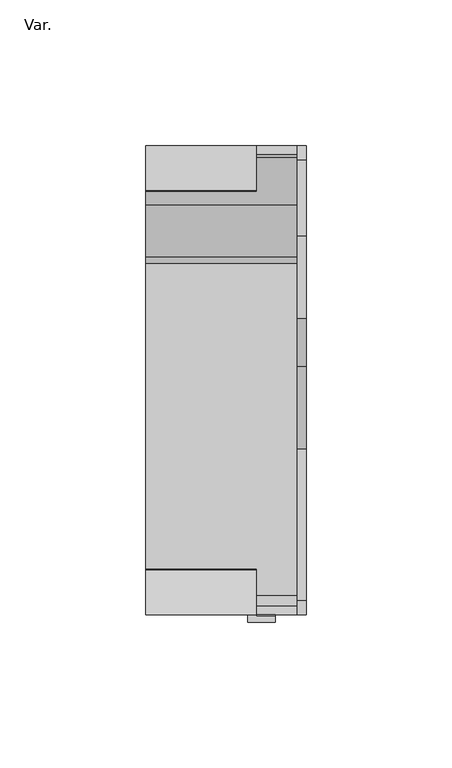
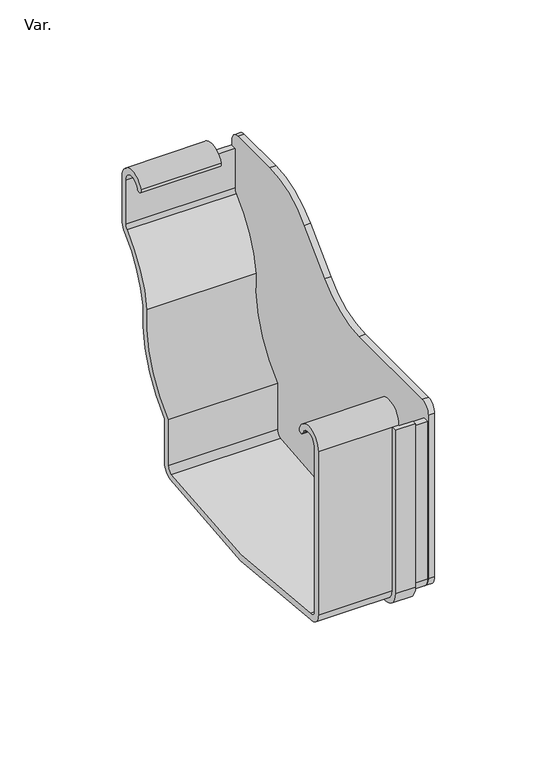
"""IFC4 building model written with IfcOpenShell, lengths in millimetres: pipe fitting geometry, PavcoWavin_UnionesDeTuberia_ZCanal Amazona_Tapa Izquierda Externa_NoUsarUnion : Var.."""

from ifc_helpers import new_model, si_unit, frame, origin, place, context, project, spatial, polyline, circle_curve, source, transform, mapped, element, save
from ifc_brep_helpers import plane_surface, cylinder_surface, revolved_surface, advanced_brep


def var_7115812f(model_context):
    return source(origin(), model_context, "Body", "AdvancedBrep", [
        advanced_brep(
        [(55.0, -63.9333621, 95.4959393), (55.0, -63.9333621, 13.8433205), (55.0, -57.5122662, 7.8581156), (55.0, 57.1983327, 7.9880254), (55.0, 62.0670241, 13.8960326), (55.0, 62.0670241, 35.6709016), (55.0, 79.7697905, 81.3073788), (55.0, 95.0881417, 109.0993235), (55.0, 97.0620322, 113.5508008), (55.0, 97.0620322, 135.5000106), (55.0, 92.0620322, 140.5000106), (55.0, 66.0531783, 140.5000106), (55.0, 37.768907, 128.7842818), (55.0, 21.1962934, 112.2116681), (55.0, -7.0879779, 100.4959393), (55.0, -58.9329759, 100.4959393), (52.0, -63.9329759, 95.4959393), (52.0, -58.9329759, 100.4959393), (52.0, -7.0879779, 100.4959393), (52.0, 21.1962934, 112.2116681), (52.0, 37.7689071, 128.7842818), (52.0, 66.0531783, 140.5000106), (52.0, 92.0620322, 140.5000106), (52.0, 97.0620322, 135.5000106), (52.0, 97.0620322, 113.5508008), (52.0, 95.0881417, 109.0993235), (52.0, 79.7697905, 81.3073788), (52.0, 62.0670241, 35.6709016), (52.0, 62.0670241, 13.8960326), (52.0, 57.1983327, 7.9880254), (52.0, -57.5122662, 7.8581156), (52.0, -63.9333621, 13.8433205)],
        [
            (0, 1),
            (1, 2, circle_curve(frame((55.0, -57.9333621, 13.8433205), z_axis=(1.0, 0.0, 0.0), x_axis=(0.0, 1.0, 0.0)), 6.0)),
            (2, 3, circle_curve(frame((55.0, -0.4926203, 304.3058025), z_axis=(1.0, 0.0, 0.0), x_axis=(0.0, 1.0, 0.0)), 301.8815514)),
            (3, 4, circle_curve(frame((55.0, 56.048086, 13.8960326), z_axis=(1.0, 0.0, 0.0), x_axis=(0.0, 1.0, 0.0)), 6.0189381)),
            (4, 5),
            (5, 6, circle_curve(frame((55.0, 27.0899596, 75.4905571), z_axis=(1.0, 0.0, 0.0), x_axis=(0.0, 1.0, 0.0)), 53.0)),
            (6, 7, circle_curve(frame((55.0, 127.8669225, 72.914777), z_axis=(-1.0, 0.0, 0.0), x_axis=(0.0, 1.0, 0.0)), 48.8238658)),
            (7, 8, circle_curve(frame((55.0, 91.0556468, 113.5508008), z_axis=(1.0, 0.0, 0.0), x_axis=(0.0, 1.0, 0.0)), 6.0063854)),
            (8, 9),
            (9, 10, circle_curve(frame((55.0, 92.0620322, 135.5000106), z_axis=(1.0, 0.0, 0.0), x_axis=(0.0, 1.0, 0.0)), 5.0)),
            (10, 11),
            (11, 12, circle_curve(frame((55.0, 66.0531783, 100.5000106), z_axis=(1.0, 0.0, 0.0), x_axis=(0.0, 1.0, 0.0)), 40.0)),
            (12, 13),
            (13, 14, circle_curve(frame((55.0, -7.0879779, 140.4959393), z_axis=(-1.0, 0.0, 0.0), x_axis=(0.0, 1.0, 0.0)), 40.0)),
            (14, 15),
            (15, 0, circle_curve(frame((55.0, -58.9329759, 95.4959393), z_axis=(1.0, 0.0, 0.0), x_axis=(0.0, 1.0, 0.0)), 5.0)),
            (16, 17, circle_curve(frame((52.0, -58.9329759, 95.4959393), z_axis=(-1.0, 0.0, 0.0), x_axis=(0.0, 1.0, 0.0)), 5.0)),
            (17, 18),
            (18, 19, circle_curve(frame((52.0, -7.0879779, 140.4959393), z_axis=(1.0, 0.0, 0.0), x_axis=(0.0, 1.0, 0.0)), 40.0)),
            (19, 20),
            (20, 21, circle_curve(frame((52.0, 66.0531783, 100.5000106), z_axis=(-1.0, 0.0, 0.0), x_axis=(0.0, 1.0, 0.0)), 40.0)),
            (21, 22),
            (22, 23, circle_curve(frame((52.0, 92.0620322, 135.5000106), z_axis=(-1.0, 0.0, 0.0), x_axis=(0.0, 1.0, 0.0)), 5.0)),
            (23, 24),
            (24, 25, circle_curve(frame((52.0, 91.0556468, 113.5508008), z_axis=(-1.0, 0.0, 0.0), x_axis=(0.0, 1.0, 0.0)), 6.0063854)),
            (25, 26, circle_curve(frame((52.0, 127.8669225, 72.914777), z_axis=(1.0, 0.0, 0.0), x_axis=(0.0, 1.0, 0.0)), 48.8238658)),
            (26, 27, circle_curve(frame((52.0, 27.0899596, 75.4905571), z_axis=(-1.0, 0.0, 0.0), x_axis=(0.0, 1.0, 0.0)), 53.0)),
            (27, 28),
            (28, 29, circle_curve(frame((52.0, 56.048086, 13.8960326), z_axis=(-1.0, 0.0, 0.0), x_axis=(0.0, 1.0, 0.0)), 6.0189381)),
            (29, 30, circle_curve(frame((52.0, -0.4926203, 304.3058025), z_axis=(-1.0, 0.0, 0.0), x_axis=(0.0, 1.0, 0.0)), 301.8815514)),
            (30, 31, circle_curve(frame((52.0, -57.9333621, 13.8433205), z_axis=(-1.0, 0.0, 0.0), x_axis=(0.0, 1.0, 0.0)), 6.0)),
            (31, 16),
            (14, 18),
            (17, 15),
            (13, 19),
            (12, 20),
            (11, 21),
            (10, 22),
            (8, 24),
            (23, 9),
            (7, 25),
            (6, 26),
            (5, 27),
            (4, 28),
            (3, 29),
            (2, 30),
            (1, 31),
            (0, 16),
        ],
        [
            plane_surface(frame((55.0, -63.9333621, 13.8433205), z_axis=(1.0, 0.0, 0.0), x_axis=(0.0, 0.0, -1.0))),
            plane_surface(frame((52.0, -63.9333621, 13.8433205), z_axis=(-1.0, 0.0, 0.0), x_axis=(0.0, 0.0, 1.0))),
            plane_surface(frame((55.0, -7.0879779, 100.4959393), z_axis=(0.0, 0.0, 1.0), x_axis=(-1.0, 0.0, 0.0))),
            revolved_surface(polyline([(52.0, 32.9120221, 140.4959393), (55.0, 32.9120221, 140.4959393)]), (52.0, -7.0879779, 140.4959393), (-1.0, 0.0, 0.0)),
            plane_surface(frame((55.0, 37.7689071, 128.7842818), z_axis=(0.0, -0.7071067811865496, 0.7071067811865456), x_axis=(-1.0, 0.0, 0.0))),
            cylinder_surface(frame((52.0, 66.0531783, 100.5000106), z_axis=(1.0, 0.0, 0.0), x_axis=(0.0, 1.0, 0.0)), 40.0),
            plane_surface(frame((55.0, 92.0620322, 140.5000106), z_axis=(0.0, 0.0, 1.0), x_axis=(-1.0, 0.0, 0.0))),
            plane_surface(frame((55.0, 97.0620322, 113.5508008), z_axis=(0.0, 1.0, 0.0), x_axis=(-1.0, 0.0, 0.0))),
            cylinder_surface(frame((52.0, 91.0556468, 113.5508008), z_axis=(1.0, 0.0, 0.0), x_axis=(0.0, 1.0, 0.0)), 6.0063854),
            revolved_surface(polyline([(52.0, 176.6907883, 72.914777), (55.0, 176.6907883, 72.914777)]), (52.0, 127.8669225, 72.914777), (-1.0, 0.0, 0.0)),
            cylinder_surface(frame((52.0, 27.0899596, 75.4905571), z_axis=(1.0, 0.0, 0.0), x_axis=(0.0, 1.0, 0.0)), 53.0),
            plane_surface(frame((55.0, 62.0670241, 13.8960326), z_axis=(0.0, 1.0, 0.0), x_axis=(-1.0, 0.0, 0.0))),
            cylinder_surface(frame((52.0, 56.048086, 13.8960326), z_axis=(1.0, 0.0, 0.0), x_axis=(0.0, 1.0, 0.0)), 6.0189381),
            cylinder_surface(frame((52.0, -0.4926203, 304.3058025), z_axis=(1.0, 0.0, 0.0), x_axis=(0.0, 1.0, 0.0)), 301.8815514),
            cylinder_surface(frame((52.0, -57.9333621, 13.8433205), z_axis=(1.0, 0.0, 0.0), x_axis=(0.0, 1.0, 0.0)), 6.0),
            plane_surface(frame((55.0, -63.9333621, 95.4959393), z_axis=(0.0, -1.0, 0.0), x_axis=(-1.0, 0.0, 0.0))),
            cylinder_surface(frame((52.0, -58.9329759, 95.4959393), z_axis=(1.0, 0.0, 0.0), x_axis=(0.0, 1.0, 0.0)), 5.0),
            cylinder_surface(frame((52.0, 92.0620322, 135.5000106), z_axis=(1.0, 0.0, 0.0), x_axis=(0.0, 1.0, 0.0)), 5.0),
        ],
        [
            (0, [[1, 2, 3, 4, 5, 6, 7, 8, 9, 10, 11, 12, 13, 14, 15, 16]]),
            (1, [[17, 18, 19, 20, 21, 22, 23, 24, 25, 26, 27, 28, 29, 30, 31, 32]]),
            (2, [[-15, 33, -18, 34]]),
            (3, [[-14, 35, -19, -33]]),
            (4, [[-13, 36, -20, -35]]),
            (5, [[-12, 37, -21, -36]]),
            (6, [[-11, 38, -22, -37]]),
            (7, [[-9, 39, -24, 40]]),
            (8, [[-8, 41, -25, -39]]),
            (9, [[-7, 42, -26, -41]]),
            (10, [[-6, 43, -27, -42]]),
            (11, [[-5, 44, -28, -43]]),
            (12, [[-4, 45, -29, -44]]),
            (13, [[-3, 46, -30, -45]]),
            (14, [[-2, 47, -31, -46]]),
            (15, [[-1, 48, -32, -47]]),
            (16, [[-16, -34, -17, -48]]),
            (17, [[-10, -40, -23, -38]]),
        ],
    ),
        advanced_brep(
        [(38.0, -64.3329759, 92.5142277), (38.0, -63.9333621, 92.5142277), (38.0, -63.9333621, 95.4959393), (38.0, -64.3329759, 95.4959393), (44.5, -64.3329759, 95.4959393), (44.5, -64.3329759, 92.5142277), (44.5, -63.9333621, 92.5142277), (35.0, -63.9333621, 13.8433205), (35.0, -57.5122662, 7.8581156), (35.0, 57.1983327, 7.9880254), (35.0, 62.0670241, 13.8960326), (35.0, 62.0670241, 35.6709016), (35.0, 79.7697905, 81.3073788), (35.0, 95.0881417, 109.0993235), (35.0, 97.0620322, 113.5508008), (35.0, 97.0620322, 108.8443434), (35.0, 95.5375964, 106.1577389), (35.0, 82.2895831, 81.2569737), (35.0, 64.5670241, 34.5550024), (35.0, 64.5670241, 13.8990047), (35.0, 57.6697029, 5.5328655), (35.0, -57.6872434, 5.3468845), (35.0, -66.4333621, 13.8433205), (35.0, -66.4333621, 95.4959393), (35.0, -63.9333621, 95.4959393), (44.5, -66.4333621, 95.4959393), (44.5, -66.4333621, 13.8433205), (44.5, -57.6872434, 5.3468845), (44.5, 57.6697029, 5.5328655), (44.5, 64.5670241, 13.8990047), (44.5, 64.5670241, 34.5550024), (44.5, 82.2895831, 81.2569737), (44.5, 95.5375964, 106.1577389), (44.5, 97.0620322, 108.8443434), (44.5, 97.0620322, 113.5508008), (44.5, 95.0881417, 109.0993235), (44.5, 79.7697905, 81.3073788), (44.5, 62.0670241, 35.6709016), (44.5, 62.0670241, 13.8960326), (44.5, 57.1983327, 7.9880254), (44.5, -57.5122662, 7.8581156), (44.5, -63.9333621, 13.8433205)],
        [
            (0, 1),
            (1, 2),
            (2, 3),
            (3, 0),
            (3, 4),
            (4, 5),
            (5, 0),
            (5, 6),
            (6, 1),
            (7, 8, circle_curve(frame((35.0, -57.9333621, 13.8433205), z_axis=(1.0, 0.0, 0.0), x_axis=(0.0, 1.0, 0.0)), 6.0)),
            (8, 9, circle_curve(frame((35.0, -0.4973698, 308.4995991), z_axis=(1.0, 0.0, 0.0), x_axis=(0.0, 1.0, 0.0)), 306.0)),
            (9, 10, circle_curve(frame((35.0, 56.0670445, 13.8804092), z_axis=(1.0, 0.0, 0.0), x_axis=(0.0, 1.0, 0.0)), 6.0)),
            (10, 11),
            (11, 12, circle_curve(frame((35.0, 27.0899596, 75.4905571), z_axis=(1.0, 0.0, 0.0), x_axis=(0.0, 1.0, 0.0)), 53.0)),
            (12, 13, circle_curve(frame((35.0, 124.3078979, 74.8764385), z_axis=(-1.0, 0.0, 0.0), x_axis=(0.0, 1.0, 0.0)), 45.0)),
            (13, 14, circle_curve(frame((35.0, 91.4286587, 113.3853985), z_axis=(1.0, 0.0, 0.0), x_axis=(0.0, 1.0, 0.0)), 5.6358012)),
            (14, 15),
            (15, 16, circle_curve(frame((35.0, 92.121652, 109.8718183), z_axis=(-1.0, 0.0, 0.0), x_axis=(0.0, 1.0, 0.0)), 5.0460937)),
            (16, 17, circle_curve(frame((35.0, 124.3078979, 74.8764385), z_axis=(1.0, 0.0, 0.0), x_axis=(0.0, 1.0, 0.0)), 42.5)),
            (17, 18, circle_curve(frame((35.0, 27.0899596, 75.4905571), z_axis=(-1.0, 0.0, 0.0), x_axis=(0.0, 1.0, 0.0)), 55.5)),
            (18, 19),
            (19, 20, circle_curve(frame((35.0, 56.0670445, 13.8804092), z_axis=(-1.0, 0.0, 0.0), x_axis=(0.0, 1.0, 0.0)), 8.5)),
            (20, 21, circle_curve(frame((35.0, -0.4973698, 308.4995991), z_axis=(-1.0, 0.0, 0.0), x_axis=(0.0, 1.0, 0.0)), 308.5)),
            (21, 22, circle_curve(frame((35.0, -57.9333621, 13.8433205), z_axis=(-1.0, 0.0, 0.0), x_axis=(0.0, 1.0, 0.0)), 8.5)),
            (22, 23),
            (23, 24),
            (24, 7),
            (25, 26),
            (26, 27, circle_curve(frame((44.5, -57.9333621, 13.8433205), z_axis=(1.0, 0.0, 0.0), x_axis=(0.0, 1.0, 0.0)), 8.5)),
            (27, 28, circle_curve(frame((44.5, -0.4973698, 308.4995991), z_axis=(1.0, 0.0, 0.0), x_axis=(0.0, 1.0, 0.0)), 308.5)),
            (28, 29, circle_curve(frame((44.5, 56.0670445, 13.8804092), z_axis=(1.0, 0.0, 0.0), x_axis=(0.0, 1.0, 0.0)), 8.5)),
            (29, 30),
            (30, 31, circle_curve(frame((44.5, 27.0899596, 75.4905571), z_axis=(1.0, 0.0, 0.0), x_axis=(0.0, 1.0, 0.0)), 55.5)),
            (31, 32, circle_curve(frame((44.5, 124.3078979, 74.8764385), z_axis=(-1.0, 0.0, 0.0), x_axis=(0.0, 1.0, 0.0)), 42.5)),
            (32, 33, circle_curve(frame((44.5, 92.121652, 109.8718183), z_axis=(1.0, 0.0, 0.0), x_axis=(0.0, 1.0, 0.0)), 5.0460937)),
            (33, 34),
            (34, 35, circle_curve(frame((44.5, 91.4286587, 113.3853985), z_axis=(-1.0, 0.0, 0.0), x_axis=(0.0, 1.0, 0.0)), 5.6358012)),
            (35, 36, circle_curve(frame((44.5, 124.3078979, 74.8764385), z_axis=(1.0, 0.0, 0.0), x_axis=(0.0, 1.0, 0.0)), 45.0)),
            (36, 37, circle_curve(frame((44.5, 27.0899596, 75.4905571), z_axis=(-1.0, 0.0, 0.0), x_axis=(0.0, 1.0, 0.0)), 53.0)),
            (37, 38),
            (38, 39, circle_curve(frame((44.5, 56.0670445, 13.8804092), z_axis=(-1.0, 0.0, 0.0), x_axis=(0.0, 1.0, 0.0)), 6.0)),
            (39, 40, circle_curve(frame((44.5, -0.4973698, 308.4995991), z_axis=(-1.0, 0.0, 0.0), x_axis=(0.0, 1.0, 0.0)), 306.0)),
            (40, 41, circle_curve(frame((44.5, -57.9333621, 13.8433205), z_axis=(-1.0, 0.0, 0.0), x_axis=(0.0, 1.0, 0.0)), 6.0)),
            (41, 6),
            (4, 25),
            (24, 2),
            (41, 7),
            (40, 8),
            (39, 9),
            (38, 10),
            (37, 11),
            (36, 12),
            (35, 13),
            (34, 14),
            (33, 15),
            (32, 16),
            (31, 17),
            (30, 18),
            (29, 19),
            (28, 20),
            (27, 21),
            (26, 22),
            (25, 23),
        ],
        [
            plane_surface(frame((38.0, 97.5403218, 133.3051321), z_axis=(1.0, 0.0, 0.0), x_axis=(0.0, 0.0, -1.0))),
            plane_surface(frame((52.0, -64.3329759, 108.4617617), z_axis=(0.0, 1.0, 0.0), x_axis=(-1.0, 0.0, 0.0))),
            plane_surface(frame((52.0, -64.3329759, 92.5142277), z_axis=(0.0, 0.0, 1.0), x_axis=(-1.0, 0.0, 0.0))),
            plane_surface(frame((35.0, -63.9333621, 95.4959393), z_axis=(-1.0, 0.0, 0.0), x_axis=(0.0, 0.0, -1.0))),
            plane_surface(frame((44.5, -63.9333621, 95.4959393), z_axis=(1.0, 0.0, 0.0), x_axis=(0.0, 0.0, 1.0))),
            plane_surface(frame((44.5, -63.9333621, 13.8433205), z_axis=(0.0, 1.0, 0.0), x_axis=(-1.0, 0.0, 0.0))),
            revolved_surface(polyline([(35.0, -51.9333621, 13.8433205), (44.5, -51.9333621, 13.8433205)]), (35.0, -57.9333621, 13.8433205), (-1.0, 0.0, 0.0)),
            revolved_surface(polyline([(35.0, 305.5026302, 308.4995991), (44.5, 305.5026302, 308.4995991)]), (35.0, -0.4973698, 308.4995991), (-1.0, 0.0, 0.0)),
            revolved_surface(polyline([(35.0, 62.0670445, 13.8804092), (44.5, 62.0670445, 13.8804092)]), (35.0, 56.0670445, 13.8804092), (-1.0, 0.0, 0.0)),
            plane_surface(frame((44.5, 62.0670241, 35.6709016), z_axis=(0.0, -1.0, 0.0), x_axis=(-1.0, 0.0, 0.0))),
            revolved_surface(polyline([(35.0, 80.0899596, 75.4905571), (44.5, 80.0899596, 75.4905571)]), (35.0, 27.0899596, 75.4905571), (-1.0, 0.0, 0.0)),
            cylinder_surface(frame((35.0, 124.3078979, 74.8764385), z_axis=(1.0, 0.0, 0.0), x_axis=(0.0, 1.0, 0.0)), 45.0),
            revolved_surface(polyline([(35.0, 97.0644599, 113.3853985), (44.5, 97.0644599, 113.3853985)]), (35.0, 91.4286587, 113.3853985), (-1.0, 0.0, 0.0)),
            plane_surface(frame((44.5, 97.0620322, 108.8443434), z_axis=(0.0, 1.0, 0.0), x_axis=(-1.0, 0.0, 0.0))),
            cylinder_surface(frame((35.0, 92.121652, 109.8718183), z_axis=(1.0, 0.0, 0.0), x_axis=(0.0, 1.0, 0.0)), 5.0460937),
            revolved_surface(polyline([(35.0, 166.8078979, 74.8764385), (44.5, 166.8078979, 74.8764385)]), (35.0, 124.3078979, 74.8764385), (-1.0, 0.0, 0.0)),
            cylinder_surface(frame((35.0, 27.0899596, 75.4905571), z_axis=(1.0, 0.0, 0.0), x_axis=(0.0, 1.0, 0.0)), 55.5),
            plane_surface(frame((44.5, 64.5670241, 13.8990047), z_axis=(0.0, 1.0, 0.0), x_axis=(-1.0, 0.0, 0.0))),
            cylinder_surface(frame((35.0, 56.0670445, 13.8804092), z_axis=(1.0, 0.0, 0.0), x_axis=(0.0, 1.0, 0.0)), 8.5),
            cylinder_surface(frame((35.0, -0.4973698, 308.4995991), z_axis=(1.0, 0.0, 0.0), x_axis=(0.0, 1.0, 0.0)), 308.5),
            cylinder_surface(frame((35.0, -57.9333621, 13.8433205), z_axis=(1.0, 0.0, 0.0), x_axis=(0.0, 1.0, 0.0)), 8.5),
            plane_surface(frame((44.5, -66.4333621, 95.4959393), z_axis=(0.0, -1.0, 0.0), x_axis=(-1.0, 0.0, 0.0))),
            plane_surface(frame((44.5, -63.9333621, 95.4959393), z_axis=(0.0, 0.0, 1.0), x_axis=(-1.0, 0.0, 0.0))),
        ],
        [
            (0, [[1, 2, 3, 4]]),
            (1, [[-4, 5, 6, 7]]),
            (2, [[-1, -7, 8, 9]]),
            (3, [[10, 11, 12, 13, 14, 15, 16, 17, 18, 19, 20, 21, 22, 23, 24, 25, 26, 27]]),
            (4, [[28, 29, 30, 31, 32, 33, 34, 35, 36, 37, 38, 39, 40, 41, 42, 43, 44, -8, -6, 45]]),
            (5, [[-27, 46, -2, -9, -44, 47]]),
            (6, [[-10, -47, -43, 48]]),
            (7, [[-11, -48, -42, 49]]),
            (8, [[-12, -49, -41, 50]]),
            (9, [[-13, -50, -40, 51]]),
            (10, [[-14, -51, -39, 52]]),
            (11, [[-15, -52, -38, 53]]),
            (12, [[-16, -53, -37, 54]]),
            (13, [[-17, -54, -36, 55]]),
            (14, [[-18, -55, -35, 56]]),
            (15, [[-19, -56, -34, 57]]),
            (16, [[-20, -57, -33, 58]]),
            (17, [[-21, -58, -32, 59]]),
            (18, [[-22, -59, -31, 60]]),
            (19, [[-23, -60, -30, 61]]),
            (20, [[-24, -61, -29, 62]]),
            (21, [[-25, -62, -28, 63]]),
            (22, [[-26, -63, -45, -5, -3, -46]]),
        ],
    ),
        advanced_brep(
        [(52.0, -63.9329759, 13.9113963), (52.0, -57.5122662, 7.8581156), (52.0, 57.1983327, 7.9880254), (52.0, 62.0670241, 13.8960326), (52.0, 62.0670241, 35.6709016), (52.0, 79.7697905, 81.3073788), (52.0, 94.9541627, 108.9844762), (52.0, 97.0620322, 113.5508008), (52.0, 97.0620322, 133.3051321), (52.0, 94.0620322, 133.3051321), (52.0, 94.0620322, 113.5508008), (52.0, 93.0036751, 111.2638765), (52.0, 76.7459019, 81.3461013), (52.0, 59.0670241, 37.0527196), (52.0, 59.0670241, 13.8914566), (52.0, 56.6326886, 10.9342173), (52.0, -57.4012665, 10.8908852), (52.0, -60.9329759, 13.8914566), (52.0, -60.9329759, 92.5142277), (52.0, -63.9329759, 92.5142277), (0.0, -60.9329759, 95.4959393), (0.0, -60.9329759, 13.8914566), (0.0, -57.4012665, 10.8908852), (0.0, 56.6326886, 10.9342173), (0.0, 59.0670241, 13.8914566), (0.0, 59.0670241, 37.0527196), (0.0, 76.7459019, 81.3461013), (0.0, 93.0036751, 111.2638765), (0.0, 94.0620322, 113.5508008), (0.0, 94.0620322, 135.5000106), (0.0, 84.3677728, 137.2216169), (0.0, 81.5512171, 138.2545807), (0.0, 97.0620322, 135.5000106), (0.0, 97.0620322, 113.5508008), (0.0, 94.9541627, 108.9844762), (0.0, 79.7697905, 81.3073788), (0.0, 62.0670241, 35.6709016), (0.0, 62.0670241, 13.8960326), (0.0, 57.1983327, 7.9880254), (0.0, -57.5122662, 7.8581156), (0.0, -63.9329759, 13.9113963), (0.0, -63.9329759, 95.4959393), (0.0, -48.4221608, 98.2505094), (0.0, -51.2387165, 97.2175456), (38.0, -60.9329759, 95.4959393), (38.0, -60.9329759, 92.5142277), (38.0, 94.0620322, 133.3051321), (38.0, 94.0620322, 135.5000106), (38.0, 84.3677728, 137.2216169), (38.0, 81.5512171, 138.2545807), (38.0, 97.0620322, 135.5000106), (38.0, 97.0620322, 133.3051321), (38.0, -63.9329759, 92.5142277), (38.0, -63.9329759, 95.4959393), (38.0, -48.4221608, 98.2505094), (38.0, -51.2387165, 97.2175456)],
        [
            (0, 1, circle_curve(frame((52.0, -57.9333621, 13.8433205), z_axis=(1.0, 0.0, 0.0), x_axis=(0.0, -1.0, 0.0)), 6.0)),
            (1, 2, circle_curve(frame((52.0, -0.4973698, 308.4995991), z_axis=(1.0, 0.0, 0.0), x_axis=(0.0, 1.0, 0.0)), 306.0)),
            (2, 3, circle_curve(frame((52.0, 56.0670445, 13.8804092), z_axis=(1.0, 0.0, 0.0), x_axis=(0.0, 1.0, 0.0)), 6.0)),
            (3, 4),
            (4, 5, circle_curve(frame((52.0, 27.0899596, 75.4905571), z_axis=(1.0, 0.0, 0.0), x_axis=(0.0, 1.0, 0.0)), 53.0)),
            (5, 6, circle_curve(frame((52.0, 124.3078979, 74.8764385), z_axis=(-1.0, 0.0, 0.0), x_axis=(0.0, 1.0, 0.0)), 45.0)),
            (6, 7, circle_curve(frame((52.0, 91.0620322, 113.5508008), z_axis=(1.0, 0.0, 0.0), x_axis=(0.0, 1.0, 0.0)), 6.0)),
            (7, 8),
            (8, 9),
            (9, 10),
            (10, 11, circle_curve(frame((52.0, 91.0620322, 113.5508008), z_axis=(-1.0, 0.0, 0.0), x_axis=(0.0, 1.0, 0.0)), 3.0)),
            (11, 12, circle_curve(frame((52.0, 124.3078979, 74.8764385), z_axis=(1.0, 0.0, 0.0), x_axis=(0.0, 1.0, 0.0)), 48.0)),
            (12, 13, circle_curve(frame((52.0, 27.0899596, 75.4905571), z_axis=(-1.0, 0.0, 0.0), x_axis=(0.0, 1.0, 0.0)), 50.0)),
            (13, 14),
            (14, 15, circle_curve(frame((52.0, 56.0670445, 13.8804092), z_axis=(-1.0, 0.0, 0.0), x_axis=(0.0, 1.0, 0.0)), 3.0)),
            (15, 16, circle_curve(frame((52.0, -0.4973698, 308.4995991), z_axis=(-1.0, 0.0, 0.0), x_axis=(0.0, 1.0, 0.0)), 303.0)),
            (16, 17, circle_curve(frame((52.0, -57.9333621, 13.8433205), z_axis=(-1.0, 0.0, 0.0), x_axis=(0.0, -1.0, 0.0)), 3.0)),
            (17, 18),
            (18, 19),
            (19, 0),
            (20, 21),
            (21, 22, circle_curve(frame((0.0, -57.9333621, 13.8433205), z_axis=(1.0, 0.0, 0.0), x_axis=(0.0, -1.0, 0.0)), 3.0)),
            (22, 23, circle_curve(frame((0.0, -0.4973698, 308.4995991), z_axis=(1.0, 0.0, 0.0), x_axis=(0.0, 1.0, 0.0)), 303.0)),
            (23, 24, circle_curve(frame((0.0, 56.0670445, 13.8804092), z_axis=(1.0, 0.0, 0.0), x_axis=(0.0, 1.0, 0.0)), 3.0)),
            (24, 25),
            (25, 26, circle_curve(frame((0.0, 27.0899596, 75.4905571), z_axis=(1.0, 0.0, 0.0), x_axis=(0.0, 1.0, 0.0)), 50.0)),
            (26, 27, circle_curve(frame((0.0, 124.3078979, 74.8764385), z_axis=(-1.0, 0.0, 0.0), x_axis=(0.0, 1.0, 0.0)), 48.0)),
            (27, 28, circle_curve(frame((0.0, 91.0620322, 113.5508008), z_axis=(1.0, 0.0, 0.0), x_axis=(0.0, 1.0, 0.0)), 3.0)),
            (28, 29),
            (29, 30, circle_curve(frame((0.0, 89.0620322, 135.5000106), z_axis=(1.0, 0.0, 0.0), x_axis=(0.0, 1.0, 0.0)), 5.0)),
            (30, 31, circle_curve(frame((0.0, 82.959495, 137.7380988), z_axis=(-1.0, 0.0, 0.0), x_axis=(0.0, 1.0, 0.0)), 1.5)),
            (31, 32, circle_curve(frame((0.0, 89.0620322, 135.5000106), z_axis=(-1.0, 0.0, 0.0), x_axis=(0.0, 1.0, 0.0)), 8.0)),
            (32, 33),
            (33, 34, circle_curve(frame((0.0, 91.0620322, 113.5508008), z_axis=(-1.0, 0.0, 0.0), x_axis=(0.0, 1.0, 0.0)), 6.0)),
            (34, 35, circle_curve(frame((0.0, 124.3078979, 74.8764385), z_axis=(1.0, 0.0, 0.0), x_axis=(0.0, 1.0, 0.0)), 45.0)),
            (35, 36, circle_curve(frame((0.0, 27.0899596, 75.4905571), z_axis=(-1.0, 0.0, 0.0), x_axis=(0.0, 1.0, 0.0)), 53.0)),
            (36, 37),
            (37, 38, circle_curve(frame((0.0, 56.0670445, 13.8804092), z_axis=(-1.0, 0.0, 0.0), x_axis=(0.0, 1.0, 0.0)), 6.0)),
            (38, 39, circle_curve(frame((0.0, -0.4973698, 308.4995991), z_axis=(-1.0, 0.0, 0.0), x_axis=(0.0, 1.0, 0.0)), 306.0)),
            (39, 40, circle_curve(frame((0.0, -57.9333621, 13.8433205), z_axis=(-1.0, 0.0, 0.0), x_axis=(0.0, -1.0, 0.0)), 6.0)),
            (40, 41),
            (41, 42, circle_curve(frame((0.0, -55.9329759, 95.4959393), z_axis=(-1.0, 0.0, 0.0), x_axis=(0.0, -1.0, 0.0)), 8.0)),
            (42, 43, circle_curve(frame((0.0, -49.8304386, 97.7340275), z_axis=(-1.0, 0.0, 0.0), x_axis=(0.0, -1.0, 0.0)), 1.5)),
            (43, 20, circle_curve(frame((0.0, -55.9329759, 95.4959393), z_axis=(1.0, 0.0, 0.0), x_axis=(0.0, -1.0, 0.0)), 5.0)),
            (20, 44),
            (44, 45),
            (45, 18),
            (17, 21),
            (16, 22),
            (15, 23),
            (14, 24),
            (13, 25),
            (12, 26),
            (11, 27),
            (10, 28),
            (9, 46),
            (46, 47),
            (47, 29),
            (47, 48, circle_curve(frame((38.0, 89.0620322, 135.5000106), z_axis=(1.0, 0.0, 0.0), x_axis=(0.0, 1.0, 0.0)), 5.0)),
            (48, 30),
            (48, 49, circle_curve(frame((38.0, 82.959495, 137.7380988), z_axis=(-1.0, 0.0, 0.0), x_axis=(0.0, 1.0, 0.0)), 1.5)),
            (49, 31),
            (49, 50, circle_curve(frame((38.0, 89.0620322, 135.5000106), z_axis=(-1.0, 0.0, 0.0), x_axis=(0.0, 1.0, 0.0)), 8.0)),
            (50, 32),
            (50, 51),
            (51, 8),
            (7, 33),
            (6, 34),
            (5, 35),
            (4, 36),
            (3, 37),
            (2, 38),
            (1, 39),
            (0, 40),
            (19, 52),
            (52, 53),
            (53, 41),
            (53, 54, circle_curve(frame((38.0, -55.9329759, 95.4959393), z_axis=(-1.0, 0.0, 0.0), x_axis=(0.0, -1.0, 0.0)), 8.0)),
            (54, 42),
            (54, 55, circle_curve(frame((38.0, -49.8304386, 97.7340275), z_axis=(-1.0, 0.0, 0.0), x_axis=(0.0, -1.0, 0.0)), 1.5)),
            (55, 43),
            (55, 44, circle_curve(frame((38.0, -55.9329759, 95.4959393), z_axis=(1.0, 0.0, 0.0), x_axis=(0.0, -1.0, 0.0)), 5.0)),
            (46, 51),
            (52, 45),
        ],
        [
            plane_surface(frame((52.0, -60.9329759, 95.4959393), z_axis=(1.0, 0.0, 0.0), x_axis=(0.0, 0.0, 1.0))),
            plane_surface(frame((0.0, -60.9329759, 95.4959393), z_axis=(-1.0, 0.0, 0.0), x_axis=(0.0, 0.0, -1.0))),
            plane_surface(frame((52.0, -60.9329759, 13.8914566), z_axis=(0.0, 1.0, 0.0), x_axis=(-1.0, 0.0, 0.0))),
            revolved_surface(polyline([(0.0, -60.9333621, 13.8433205), (52.0, -60.9333621, 13.8433205)]), (0.0, -57.9333621, 13.8433205), (-1.0, 0.0, 0.0)),
            revolved_surface(polyline([(0.0, 302.5026302, 308.4995991), (52.0, 302.5026302, 308.4995991)]), (0.0, -0.4973698, 308.4995991), (-1.0, 0.0, 0.0)),
            revolved_surface(polyline([(0.0, 59.0670445, 13.8804092), (52.0, 59.0670445, 13.8804092)]), (0.0, 56.0670445, 13.8804092), (-1.0, 0.0, 0.0)),
            plane_surface(frame((52.0, 59.0670241, 37.0527196), z_axis=(0.0, -1.0, 0.0), x_axis=(-1.0, 0.0, 0.0))),
            revolved_surface(polyline([(0.0, 77.0899596, 75.4905571), (52.0, 77.0899596, 75.4905571)]), (0.0, 27.0899596, 75.4905571), (-1.0, 0.0, 0.0)),
            cylinder_surface(frame((0.0, 124.3078979, 74.8764385), z_axis=(1.0, 0.0, 0.0), x_axis=(0.0, 1.0, 0.0)), 48.0),
            revolved_surface(polyline([(0.0, 94.0620322, 113.5508008), (52.0, 94.0620322, 113.5508008)]), (0.0, 91.0620322, 113.5508008), (-1.0, 0.0, 0.0)),
            plane_surface(frame((52.0, 94.0620322, 135.5000106), z_axis=(0.0, -1.0, 0.0), x_axis=(-1.0, 0.0, 0.0))),
            revolved_surface(polyline([(0.0, 94.0620322, 135.5000106), (38.0, 94.0620322, 135.5000106)]), (0.0, 89.0620322, 135.5000106), (-1.0, 0.0, 0.0)),
            cylinder_surface(frame((0.0, 82.959495, 137.7380988), z_axis=(1.0, 0.0, 0.0), x_axis=(0.0, 1.0, 0.0)), 1.5),
            cylinder_surface(frame((0.0, 89.0620322, 135.5000106), z_axis=(1.0, 0.0, 0.0), x_axis=(0.0, 1.0, 0.0)), 8.0),
            plane_surface(frame((52.0, 97.0620322, 113.5508008), z_axis=(0.0, 1.0, 0.0), x_axis=(-1.0, 0.0, 0.0))),
            cylinder_surface(frame((0.0, 91.0620322, 113.5508008), z_axis=(1.0, 0.0, 0.0), x_axis=(0.0, 1.0, 0.0)), 6.0),
            revolved_surface(polyline([(0.0, 169.3078979, 74.8764385), (52.0, 169.3078979, 74.8764385)]), (0.0, 124.3078979, 74.8764385), (-1.0, 0.0, 0.0)),
            cylinder_surface(frame((0.0, 27.0899596, 75.4905571), z_axis=(1.0, 0.0, 0.0), x_axis=(0.0, 1.0, 0.0)), 53.0),
            plane_surface(frame((52.0, 62.0670241, 13.8960326), z_axis=(0.0, 1.0, 0.0), x_axis=(-1.0, 0.0, 0.0))),
            cylinder_surface(frame((0.0, 56.0670445, 13.8804092), z_axis=(1.0, 0.0, 0.0), x_axis=(0.0, 1.0, 0.0)), 6.0),
            cylinder_surface(frame((0.0, -0.4973698, 308.4995991), z_axis=(1.0, 0.0, 0.0), x_axis=(0.0, 1.0, 0.0)), 306.0),
            cylinder_surface(frame((0.0, -57.9333621, 13.8433205), z_axis=(1.0, 0.0, 0.0), x_axis=(0.0, -1.0, 0.0)), 6.0),
            plane_surface(frame((52.0, -63.9329759, 95.4959393), z_axis=(0.0, -1.0, 0.0), x_axis=(-1.0, 0.0, 0.0))),
            cylinder_surface(frame((0.0, -55.9329759, 95.4959393), z_axis=(1.0, 0.0, 0.0), x_axis=(0.0, -1.0, 0.0)), 8.0),
            cylinder_surface(frame((0.0, -49.8304386, 97.7340275), z_axis=(1.0, 0.0, 0.0), x_axis=(0.0, -1.0, 0.0)), 1.5),
            revolved_surface(polyline([(0.0, -60.9329759, 95.4959393), (38.0, -60.9329759, 95.4959393)]), (0.0, -55.9329759, 95.4959393), (-1.0, 0.0, 0.0)),
            plane_surface(frame((38.0, 97.5403218, 133.3051321), z_axis=(1.0, 0.0, 0.0), x_axis=(0.0, 0.0, -1.0))),
            plane_surface(frame((52.0, 80.6941466, 133.3051321), z_axis=(0.0, 0.0, 1.0), x_axis=(-1.0, 0.0, 0.0))),
            plane_surface(frame((52.0, -64.3329759, 92.5142277), z_axis=(0.0, 0.0, 1.0), x_axis=(-1.0, 0.0, 0.0))),
        ],
        [
            (0, [[1, 2, 3, 4, 5, 6, 7, 8, 9, 10, 11, 12, 13, 14, 15, 16, 17, 18, 19, 20]]),
            (1, [[21, 22, 23, 24, 25, 26, 27, 28, 29, 30, 31, 32, 33, 34, 35, 36, 37, 38, 39, 40, 41, 42, 43, 44]]),
            (2, [[-21, 45, 46, 47, -18, 48]]),
            (3, [[-17, 49, -22, -48]]),
            (4, [[-16, 50, -23, -49]]),
            (5, [[-15, 51, -24, -50]]),
            (6, [[-14, 52, -25, -51]]),
            (7, [[-13, 53, -26, -52]]),
            (8, [[-12, 54, -27, -53]]),
            (9, [[-11, 55, -28, -54]]),
            (10, [[-29, -55, -10, 56, 57, 58]]),
            (11, [[-30, -58, 59, 60]]),
            (12, [[-31, -60, 61, 62]]),
            (13, [[-32, -62, 63, 64]]),
            (14, [[-33, -64, 65, 66, -8, 67]]),
            (15, [[-7, 68, -34, -67]]),
            (16, [[-6, 69, -35, -68]]),
            (17, [[-5, 70, -36, -69]]),
            (18, [[-4, 71, -37, -70]]),
            (19, [[-3, 72, -38, -71]]),
            (20, [[-2, 73, -39, -72]]),
            (21, [[-1, 74, -40, -73]]),
            (22, [[-41, -74, -20, 75, 76, 77]]),
            (23, [[-42, -77, 78, 79]]),
            (24, [[-43, -79, 80, 81]]),
            (25, [[-44, -81, 82, -45]]),
            (26, [[83, -65, -63, -61, -59, -57]]),
            (26, [[84, -46, -82, -80, -78, -76]]),
            (27, [[-83, -56, -9, -66]]),
            (28, [[-84, -75, -19, -47]]),
        ],
    ),
    ])


if __name__ == "__main__":
    model = new_model("IFC4")
    model_context = context("Model", 3, world=origin())
    ifc_project = project(units=[si_unit("LENGTHUNIT", "METRE", prefix="MILLI")], contexts=[model_context])
    site = spatial("IfcSite", under=ifc_project)
    building = spatial("IfcBuilding", under=site)
    placement = place(None, origin())
    var_shape = var_7115812f(model_context)
    element("IfcPipeFitting", 1, ObjectType="PavcoWavin_UnionesDeTuberia_ZCanal Amazona_Tapa Izquierda Externa_NoUsarUnion : Var.", at=placement, inside=building, context=model_context, shape_type="MappedRepresentation", body=[
        mapped(var_shape, transform((0.0, 0.0, 0.0), x_axis=(1.0, 0.0, 0.0), y_axis=(0.0, 1.0, 0.0), z_axis=(0.0, 0.0, 1.0))),
    ])
    save(model, "model.ifc")
